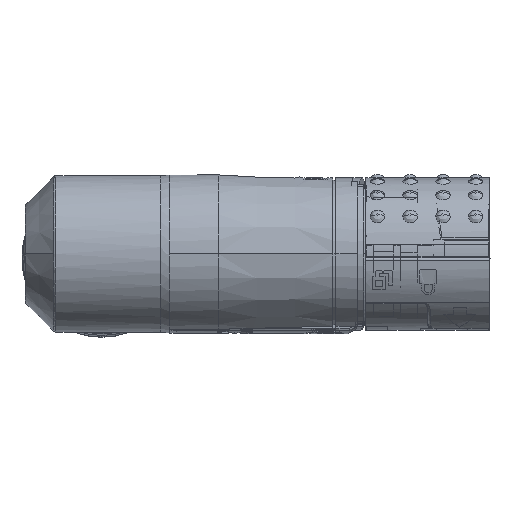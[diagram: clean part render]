
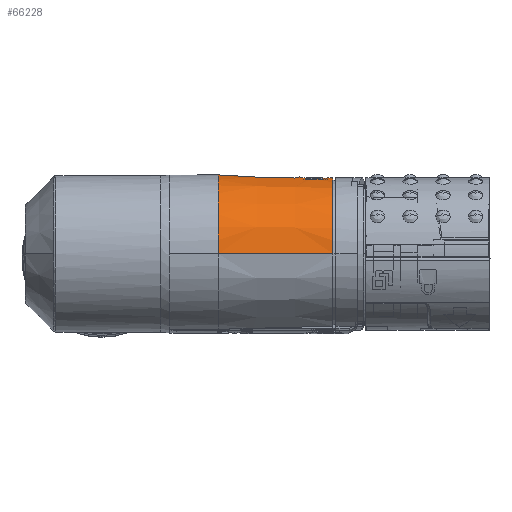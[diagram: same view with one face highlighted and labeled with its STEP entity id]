
A CAD part, top view. The second image highlights one B-rep face of the part: STEP entity #66228.
In plain terms, the highlighted conical face has half-angle 1.457 degrees and reference radius 10.86 mm.
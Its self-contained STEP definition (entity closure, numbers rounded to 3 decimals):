
#248 = CARTESIAN_POINT ( 'NONE',  ( 27.284, 10.554, 23.794 ) ) ;
#2109 = CARTESIAN_POINT ( 'NONE',  ( 29.824, 10.336, 26.338 ) ) ;
#3057 = EDGE_CURVE ( 'NONE', #63994, #86773, #107470, .T. ) ;
#3519 = VERTEX_POINT ( 'NONE', #22646 ) ;
#4150 = CARTESIAN_POINT ( 'NONE',  ( 31.182, 10.474, 24.439 ) ) ;
#4342 = EDGE_LOOP ( 'NONE', ( #17805, #17571, #38355, #79756 ) ) ;
#7324 = CARTESIAN_POINT ( 'NONE',  ( 27.962, 10.436, 22.849 ) ) ;
#7625 = AXIS2_PLACEMENT_3D ( 'NONE', #14768, #15350, #76639 ) ;
#9607 = CARTESIAN_POINT ( 'NONE',  ( 30.068, 10.347, 22.642 ) ) ;
#10318 = CARTESIAN_POINT ( 'NONE',  ( 30.066, 10.347, 26.238 ) ) ;
#11155 = CIRCLE ( 'NONE', #100521, 10.46 ) ;
#12021 = CARTESIAN_POINT ( 'NONE',  ( 28.654, 10.357, 26.386 ) ) ;
#13492 = CARTESIAN_POINT ( 'NONE',  ( 16., 0., 13.579 ) ) ;
#14230 = CIRCLE ( 'NONE', #101695, 10.86 ) ;
#14768 = CARTESIAN_POINT ( 'NONE',  ( 16., 0., 24.439 ) ) ;
#15350 = DIRECTION ( 'NONE',  ( -1., 0., 0. ) ) ;
#17006 = EDGE_CURVE ( 'NONE', #32992, #3519, #67938, .T. ) ;
#17571 = ORIENTED_EDGE ( 'NONE', *, *, #65460, .T. ) ;
#17805 = ORIENTED_EDGE ( 'NONE', *, *, #3057, .F. ) ;
#18328 = CARTESIAN_POINT ( 'NONE',  ( 29.312, 10.33, 22.439 ) ) ;
#19003 = CARTESIAN_POINT ( 'NONE',  ( 30.501, 10.383, 25.948 ) ) ;
#19485 = CARTESIAN_POINT ( 'NONE',  ( 30.929, 10.435, 23.432 ) ) ;
#19987 = CARTESIAN_POINT ( 'NONE',  ( 16., 0., 13.579 ) ) ;
#20621 = CARTESIAN_POINT ( 'NONE',  ( 31.182, 10.474, 24.308 ) ) ;
#22646 = CARTESIAN_POINT ( 'NONE',  ( 27.182, 10.576, 24.439 ) ) ;
#23126 = CARTESIAN_POINT ( 'NONE',  ( 31.73, 0., 34.899 ) ) ;
#24878 = CARTESIAN_POINT ( 'NONE',  ( 31.079, 10.457, 25.085 ) ) ;
#25925 = CARTESIAN_POINT ( 'NONE',  ( 27.246, 10.562, 23.921 ) ) ;
#28407 = EDGE_LOOP ( 'NONE', ( #29451, #90931 ) ) ;
#28963 = CARTESIAN_POINT ( 'NONE',  ( 28.917, 10.34, 26.439 ) ) ;
#29318 = DIRECTION ( 'NONE',  ( -1., 0., 0.025 ) ) ;
#29451 = ORIENTED_EDGE ( 'NONE', *, *, #105989, .T. ) ;
#32992 = VERTEX_POINT ( 'NONE', #4150 ) ;
#33664 = CARTESIAN_POINT ( 'NONE',  ( 31.117, 10.463, 24.96 ) ) ;
#34131 = CARTESIAN_POINT ( 'NONE',  ( 28.916, 10.34, 22.44 ) ) ;
#36583 = VERTEX_POINT ( 'NONE', #57315 ) ;
#37101 = CARTESIAN_POINT ( 'NONE',  ( 30.183, 10.355, 26.175 ) ) ;
#37172 = CONICAL_SURFACE ( 'NONE', #7625, 10.86, 0.025 ) ;
#37681 = CARTESIAN_POINT ( 'NONE',  ( 28.176, 10.407, 26.173 ) ) ;
#37853 = DIRECTION ( 'NONE',  ( 0., 0., -1. ) ) ;
#38355 = ORIENTED_EDGE ( 'NONE', *, *, #41131, .T. ) ;
#38451 = CARTESIAN_POINT ( 'NONE',  ( 31.73, 0., 24.439 ) ) ;
#39296 = CARTESIAN_POINT ( 'NONE',  ( 31.182, 10.474, 24.439 ) ) ;
#41020 = FACE_OUTER_BOUND ( 'NONE', #4342, .T. ) ;
#41131 = EDGE_CURVE ( 'NONE', #36583, #91697, #58378, .T. ) ;
#42443 = CARTESIAN_POINT ( 'NONE',  ( 31.182, 10.474, 24.439 ) ) ;
#43323 = DIRECTION ( 'NONE',  ( -1., 0., 0. ) ) ;
#43473 = CARTESIAN_POINT ( 'NONE',  ( 28.656, 10.357, 22.492 ) ) ;
#45173 = CARTESIAN_POINT ( 'NONE',  ( 27.435, 10.524, 23.432 ) ) ;
#45791 = CARTESIAN_POINT ( 'NONE',  ( 16., 0., 24.439 ) ) ;
#47609 = CARTESIAN_POINT ( 'NONE',  ( 30.78, 10.413, 25.67 ) ) ;
#49675 = DIRECTION ( 'NONE',  ( -1., 0., -0.025 ) ) ;
#51218 = VECTOR ( 'NONE', #49675, 1000. ) ;
#52786 = CARTESIAN_POINT ( 'NONE',  ( 30.504, 10.383, 22.933 ) ) ;
#53946 = CARTESIAN_POINT ( 'NONE',  ( 29.826, 10.336, 22.542 ) ) ;
#54639 = CARTESIAN_POINT ( 'NONE',  ( 29.699, 10.332, 26.376 ) ) ;
#55659 = CARTESIAN_POINT ( 'NONE',  ( 30.78, 10.413, 23.209 ) ) ;
#57315 = CARTESIAN_POINT ( 'NONE',  ( 31.73, 0., 13.979 ) ) ;
#58378 = LINE ( 'NONE', #13492, #51218 ) ;
#60949 = CARTESIAN_POINT ( 'NONE',  ( 29.442, 10.329, 22.452 ) ) ;
#61512 = CARTESIAN_POINT ( 'NONE',  ( 27.583, 10.495, 23.21 ) ) ;
#63952 = CARTESIAN_POINT ( 'NONE',  ( 30.928, 10.434, 25.449 ) ) ;
#63994 = VERTEX_POINT ( 'NONE', #23126 ) ;
#65460 = EDGE_CURVE ( 'NONE', #63994, #36583, #11155, .T. ) ;
#66228 = ADVANCED_FACE ( 'NONE', ( #41020, #85383 ), #37172, .T. ) ;
#67938 = B_SPLINE_CURVE_WITH_KNOTS ( 'NONE', 3,
 ( #42443, #78039, #113566, #33664, #24878, #63952, #47609, #19003, #99483, #37101, #10318, #2109, #54639, #91891, #82053, #28963, #12021, #82621, #37681, #73309, #83186, #72149, #80901, #91307, #81480, #73879, #107691, #100084 ),
 .UNSPECIFIED., .F., .F.,
 ( 4, 2, 2, 2, 2, 2, 2, 2, 2, 2, 2, 2, 2, 4 ),
 ( 0.005, 0.005, 0.005, 0.006, 0.006, 0.007, 0.007, 0.008, 0.008, 0.009, 0.009, 0.01, 0.01, 0.011 ),
 .UNSPECIFIED. ) ;
#69720 = CARTESIAN_POINT ( 'NONE',  ( 27.182, 10.576, 24.308 ) ) ;
#71447 = CARTESIAN_POINT ( 'NONE',  ( 27.195, 10.573, 24.178 ) ) ;
#72149 = CARTESIAN_POINT ( 'NONE',  ( 27.675, 10.481, 25.761 ) ) ;
#72992 = CARTESIAN_POINT ( 'NONE',  ( 16., 0., 35.299 ) ) ;
#73226 = DIRECTION ( 'NONE',  ( 0., 0., 1. ) ) ;
#73309 = CARTESIAN_POINT ( 'NONE',  ( 27.96, 10.436, 26.028 ) ) ;
#73879 = CARTESIAN_POINT ( 'NONE',  ( 27.234, 10.564, 24.963 ) ) ;
#76639 = DIRECTION ( 'NONE',  ( 0., 0., -1. ) ) ;
#78039 = CARTESIAN_POINT ( 'NONE',  ( 31.182, 10.474, 24.57 ) ) ;
#79071 = CARTESIAN_POINT ( 'NONE',  ( 27.86, 10.451, 22.933 ) ) ;
#79756 = ORIENTED_EDGE ( 'NONE', *, *, #113359, .F. ) ;
#80201 = CARTESIAN_POINT ( 'NONE',  ( 27.182, 10.576, 24.439 ) ) ;
#80901 = CARTESIAN_POINT ( 'NONE',  ( 27.591, 10.495, 25.659 ) ) ;
#81480 = CARTESIAN_POINT ( 'NONE',  ( 27.385, 10.534, 25.328 ) ) ;
#82053 = CARTESIAN_POINT ( 'NONE',  ( 29.309, 10.33, 26.44 ) ) ;
#82621 = CARTESIAN_POINT ( 'NONE',  ( 28.293, 10.393, 26.236 ) ) ;
#83186 = CARTESIAN_POINT ( 'NONE',  ( 27.859, 10.451, 25.946 ) ) ;
#83635 = CARTESIAN_POINT ( 'NONE',  ( 31.169, 10.472, 24.178 ) ) ;
#85383 = FACE_BOUND ( 'NONE', #28407, .T. ) ;
#86773 = VERTEX_POINT ( 'NONE', #72992 ) ;
#87752 = CARTESIAN_POINT ( 'NONE',  ( 30.183, 10.355, 22.703 ) ) ;
#89937 = CARTESIAN_POINT ( 'NONE',  ( 16., 0., 35.299 ) ) ;
#90931 = ORIENTED_EDGE ( 'NONE', *, *, #17006, .T. ) ;
#91307 = CARTESIAN_POINT ( 'NONE',  ( 27.447, 10.522, 25.442 ) ) ;
#91697 = VERTEX_POINT ( 'NONE', #19987 ) ;
#91891 = CARTESIAN_POINT ( 'NONE',  ( 29.441, 10.329, 26.427 ) ) ;
#96469 = CARTESIAN_POINT ( 'NONE',  ( 29.699, 10.332, 22.503 ) ) ;
#97045 = CARTESIAN_POINT ( 'NONE',  ( 30.401, 10.373, 22.849 ) ) ;
#97706 = B_SPLINE_CURVE_WITH_KNOTS ( 'NONE', 3,
 ( #80201, #69720, #71447, #25925, #248, #45173, #61512, #79071, #7324, #107005, #105277, #43473, #34131, #18328, #60949, #96469, #53946, #9607, #87752, #97045, #52786, #55659, #19485, #109866, #101101, #83635, #20621, #39296 ),
 .UNSPECIFIED., .F., .F.,
 ( 4, 2, 2, 2, 2, 2, 2, 2, 2, 2, 2, 2, 2, 4 ),
 ( 0.011, 0.011, 0.012, 0.012, 0.013, 0.013, 0.014, 0.014, 0.015, 0.015, 0.015, 0.016, 0.017, 0.017 ),
 .UNSPECIFIED. ) ;
#98229 = DIRECTION ( 'NONE',  ( -1., 0., 0. ) ) ;
#99483 = CARTESIAN_POINT ( 'NONE',  ( 30.401, 10.373, 26.031 ) ) ;
#100084 = CARTESIAN_POINT ( 'NONE',  ( 27.182, 10.576, 24.439 ) ) ;
#100521 = AXIS2_PLACEMENT_3D ( 'NONE', #38451, #43323, #37853 ) ;
#101101 = CARTESIAN_POINT ( 'NONE',  ( 31.118, 10.464, 23.921 ) ) ;
#101695 = AXIS2_PLACEMENT_3D ( 'NONE', #45791, #98229, #73226 ) ;
#105277 = CARTESIAN_POINT ( 'NONE',  ( 28.293, 10.393, 22.643 ) ) ;
#105989 = EDGE_CURVE ( 'NONE', #3519, #32992, #97706, .T. ) ;
#107005 = CARTESIAN_POINT ( 'NONE',  ( 28.178, 10.407, 22.704 ) ) ;
#107212 = VECTOR ( 'NONE', #29318, 1000. ) ;
#107470 = LINE ( 'NONE', #89937, #107212 ) ;
#107691 = CARTESIAN_POINT ( 'NONE',  ( 27.182, 10.576, 24.703 ) ) ;
#109866 = CARTESIAN_POINT ( 'NONE',  ( 31.079, 10.457, 23.794 ) ) ;
#113359 = EDGE_CURVE ( 'NONE', #86773, #91697, #14230, .T. ) ;
#113566 = CARTESIAN_POINT ( 'NONE',  ( 31.169, 10.472, 24.703 ) ) ;
